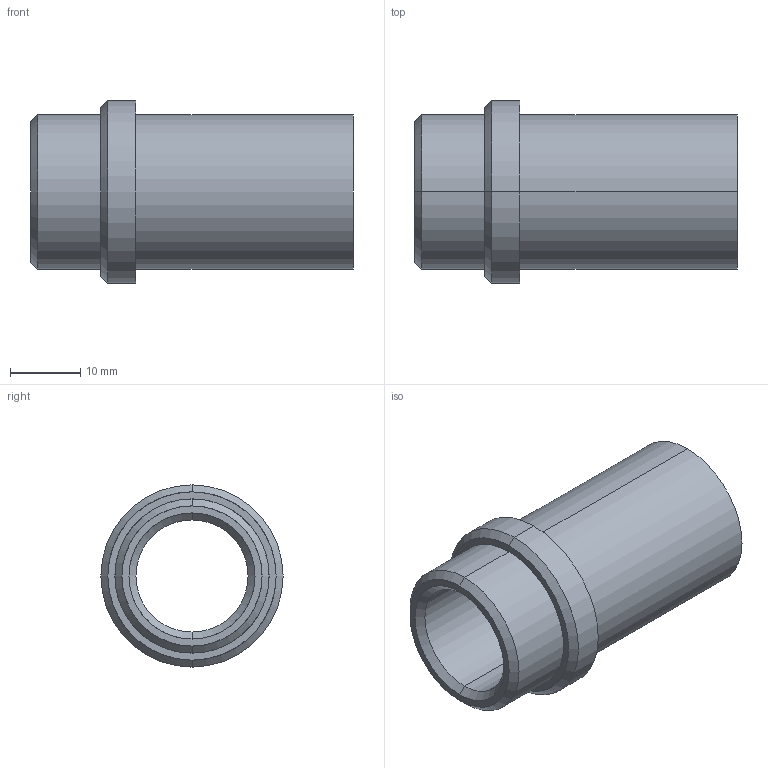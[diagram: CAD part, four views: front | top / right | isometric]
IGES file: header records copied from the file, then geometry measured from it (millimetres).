
Start section: START RECORD GO HERE.
Global section: file name: 358-16x46.igs; native system: DASSAULT SYSTEMES CATIA V5 R20 - www.3ds.com; preprocessor: CATIA Version 5 Release 20 ; author: Utente; organization: NB04-ASUS; date: 20210408.155536; units: millimetre
Bounding box: 46 x 26 x 26 mm (x, y, z)
Surface area: 6053.6 mm2 (no closed solid volume)
Topology: 0 solids, 0 shells, 20 faces, 128 edges, 128 vertices
Faces by surface type: revolution 16, plane 4
